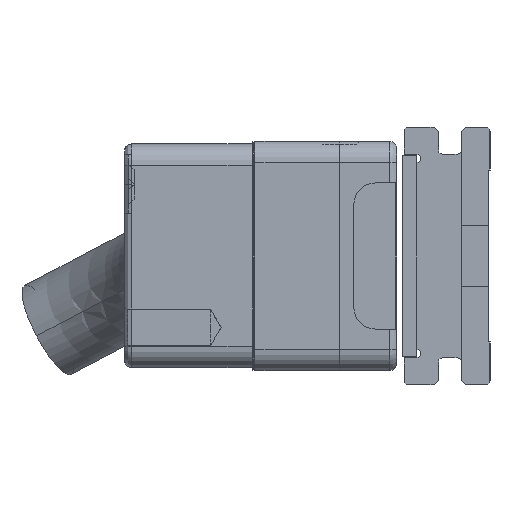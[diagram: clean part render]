
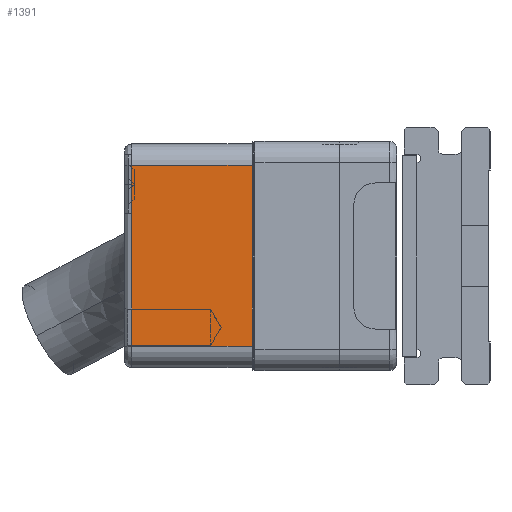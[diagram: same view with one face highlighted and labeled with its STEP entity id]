
A CAD part, left-side view. The second image highlights one B-rep face of the part: STEP entity #1391.
In plain terms, the highlighted planar face has unit normal (-1, 0, 0).
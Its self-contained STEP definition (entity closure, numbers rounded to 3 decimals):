
#314 = DIRECTION ( 'NONE',  ( 0., 0., -1. ) ) ;
#584 = ORIENTED_EDGE ( 'NONE', *, *, #1865, .T. ) ;
#913 = LINE ( 'NONE', #4415, #3857 ) ;
#1391 = ADVANCED_FACE ( 'NONE', ( #2589 ), #2639, .F. ) ;
#1865 = EDGE_CURVE ( 'NONE', #3941, #6012, #3821, .T. ) ;
#1900 = VECTOR ( 'NONE', #10995, 1000. ) ;
#1906 = AXIS2_PLACEMENT_3D ( 'NONE', #3507, #8665, #6158 ) ;
#1910 = CARTESIAN_POINT ( 'NONE',  ( 0., 18.5, 1.708 ) ) ;
#1974 = EDGE_CURVE ( 'NONE', #8121, #5733, #6414, .T. ) ;
#2278 = ORIENTED_EDGE ( 'NONE', *, *, #2466, .F. ) ;
#2466 = EDGE_CURVE ( 'NONE', #8121, #6012, #913, .T. ) ;
#2589 = FACE_OUTER_BOUND ( 'NONE', #6762, .T. ) ;
#2639 = PLANE ( 'NONE',  #1906 ) ;
#2697 = CARTESIAN_POINT ( 'NONE',  ( 0., 10.1, 14.325 ) ) ;
#3139 = CARTESIAN_POINT ( 'NONE',  ( 0., 10.1, 1.708 ) ) ;
#3220 = VECTOR ( 'NONE', #314, 1000. ) ;
#3507 = CARTESIAN_POINT ( 'NONE',  ( 0., 19., 1.708 ) ) ;
#3561 = DIRECTION ( 'NONE',  ( 0., -1., 0. ) ) ;
#3821 = LINE ( 'NONE', #3139, #10358 ) ;
#3857 = VECTOR ( 'NONE', #3561, 1000. ) ;
#3941 = VERTEX_POINT ( 'NONE', #4115 ) ;
#4115 = CARTESIAN_POINT ( 'NONE',  ( 0., 10.1, 1.708 ) ) ;
#4415 = CARTESIAN_POINT ( 'NONE',  ( 0., 19., 14.325 ) ) ;
#4600 = CARTESIAN_POINT ( 'NONE',  ( 0., 18.5, 14.325 ) ) ;
#5550 = CARTESIAN_POINT ( 'NONE',  ( 0., 18.5, 1.708 ) ) ;
#5733 = VERTEX_POINT ( 'NONE', #1910 ) ;
#6012 = VERTEX_POINT ( 'NONE', #2697 ) ;
#6158 = DIRECTION ( 'NONE',  ( 0., 1., 0. ) ) ;
#6414 = LINE ( 'NONE', #5550, #3220 ) ;
#6581 = CARTESIAN_POINT ( 'NONE',  ( 0., 19., 1.708 ) ) ;
#6637 = EDGE_CURVE ( 'NONE', #5733, #3941, #6695, .T. ) ;
#6695 = LINE ( 'NONE', #6581, #1900 ) ;
#6762 = EDGE_LOOP ( 'NONE', ( #2278, #9277, #8187, #584 ) ) ;
#8121 = VERTEX_POINT ( 'NONE', #4600 ) ;
#8187 = ORIENTED_EDGE ( 'NONE', *, *, #6637, .T. ) ;
#8665 = DIRECTION ( 'NONE',  ( 1., 0., 0. ) ) ;
#9277 = ORIENTED_EDGE ( 'NONE', *, *, #1974, .T. ) ;
#9961 = DIRECTION ( 'NONE',  ( 0., 0., 1. ) ) ;
#10358 = VECTOR ( 'NONE', #9961, 1000. ) ;
#10995 = DIRECTION ( 'NONE',  ( 0., -1., 0. ) ) ;
